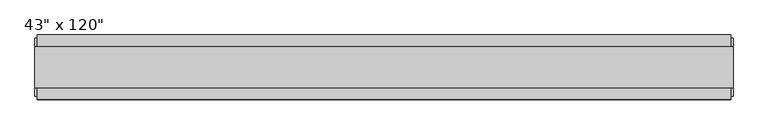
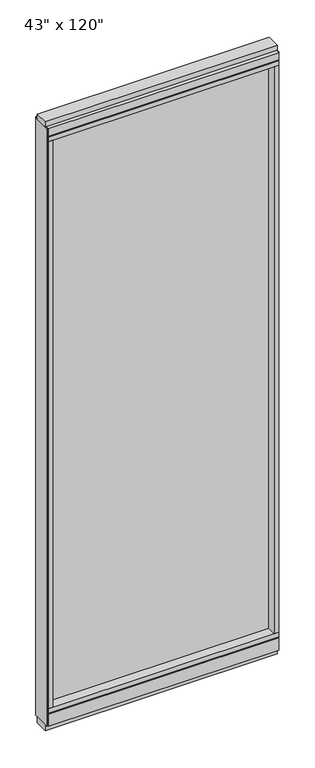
"""IFC4 building model written with IfcOpenShell, lengths in millimetres: furniture geometry."""

from ifc_helpers import new_model, si_unit, frame, origin, origin_with_axes, place, context, project, spatial, polyline, outline, extrude, source, transform, mapped, element, save


def furniture_c3b1cbea(model_context):
    return source(origin(), model_context, "Body", "SweptSolid", [
        extrude(outline(polyline([(463.7213989, -9.5977216), (-583.7944448, -9.5977216), (-583.7944448, 0.5622784), (463.7213989, 0.5622784), (463.7213989, -9.5977216)])), frame((0.0, 0.0, 120.523), z_axis=(0.0, 0.0, 1.0), x_axis=(1.0, 0.0, 0.0)), (0.0, 0.0, 1.0), 2838.577),
        extrude(outline(polyline([(-55.3177216, 93.345), (-50.3647216, 93.345), (-50.3647216, 98.298), (41.3292784, 98.298), (41.3292784, 93.345), (46.2822784, 93.345), (46.2822784, 31.75), (-55.3177216, 31.75), (-55.3177216, 93.345)])), frame((-606.0194448, 0.0, 0.0), z_axis=(1.0, 0.0, 0.0), x_axis=(0.0, 1.0, 0.0)), (0.0, 0.0, 1.0), 1091.9658437),
        extrude(outline(polyline([(-606.0194448, -55.3177216), (-606.0194448, 46.2822784), (485.9463989, 46.2822784), (485.9463989, -55.3177216), (-606.0194448, -55.3177216)])), frame((0.0, 0.0, 98.298), z_axis=(0.0, 0.0, 1.0), x_axis=(1.0, 0.0, 0.0)), (0.0, 0.0, 1.0), 22.225),
        extrude(outline(polyline([(489.8833989, 27.9942784), (489.8833989, -37.0297216), (-609.9564448, -37.0297216), (-609.9564448, 27.9942784), (489.8833989, 27.9942784)])), origin_with_axes(), (0.0, 0.0, 1.0), 31.75),
        extrude(outline(polyline([(-609.9564448, -37.0297216), (-609.9564448, 27.9942784), (489.8833989, 27.9942784), (489.8833989, -37.0297216), (-609.9564448, -37.0297216)])), frame((0.0, 0.0, 3022.6), z_axis=(0.0, 0.0, 1.0), x_axis=(1.0, 0.0, 0.0)), (0.0, 0.0, 1.0), 25.4),
        extrude(outline(polyline([(-55.3177216, 2986.278), (-55.3177216, 3022.6), (46.2822784, 3022.6), (46.2822784, 2986.278), (41.3292784, 2986.278), (41.3292784, 2981.325), (-50.3647216, 2981.325), (-50.3647216, 2986.278), (-55.3177216, 2986.278)])), frame((-606.0194448, 0.0, 0.0), z_axis=(1.0, 0.0, 0.0), x_axis=(0.0, 1.0, 0.0)), (0.0, 0.0, 1.0), 1091.9658437),
        extrude(outline(polyline([(485.9463989, 46.2822784), (485.9463989, -55.3177216), (-606.0194448, -55.3177216), (-606.0194448, 46.2822784), (485.9463989, 46.2822784)])), frame((0.0, 0.0, 2959.1), z_axis=(0.0, 0.0, 1.0), x_axis=(1.0, 0.0, 0.0)), (0.0, 0.0, 1.0), 22.225),
        extrude(outline(polyline([(463.7213989, -55.3177216), (463.7213989, 46.2822784), (485.9463989, 46.2822784), (485.9463989, -55.3177216), (463.7213989, -55.3177216)])), frame((0.0, 0.0, 120.523), z_axis=(0.0, 0.0, 1.0), x_axis=(1.0, 0.0, 0.0)), (0.0, 0.0, 1.0), 2838.577),
        extrude(outline(polyline([(-583.7944448, -55.3177216), (-606.0194448, -55.3177216), (-606.0194448, 46.2822784), (-583.7944448, 46.2822784), (-583.7944448, -55.3177216)])), frame((0.0, 0.0, 120.523), z_axis=(0.0, 0.0, 1.0), x_axis=(1.0, 0.0, 0.0)), (0.0, 0.0, 1.0), 2838.577),
        extrude(outline(polyline([(489.8833989, -50.3647216), (485.9463989, -50.3647216), (485.9463989, 41.3292784), (489.8833989, 41.3292784), (489.8833989, -50.3647216)])), frame((0.0, 0.0, 31.75), z_axis=(0.0, 0.0, 1.0), x_axis=(1.0, 0.0, 0.0)), (0.0, 0.0, 1.0), 2990.85),
        extrude(outline(polyline([(-609.9564448, -50.3647216), (-609.9564448, 41.3292784), (-606.0194448, 41.3292784), (-606.0194448, -50.3647216), (-609.9564448, -50.3647216)])), frame((0.0, 0.0, 31.75), z_axis=(0.0, 0.0, 1.0), x_axis=(1.0, 0.0, 0.0)), (0.0, 0.0, 1.0), 2990.85),
    ])


if __name__ == "__main__":
    model = new_model("IFC4")
    model_context = context("Model", 3, world=origin())
    ifc_project = project(units=[si_unit("LENGTHUNIT", "METRE", prefix="MILLI")], contexts=[model_context])
    site = spatial("IfcSite", under=ifc_project)
    building = spatial("IfcBuilding", under=site)
    placement = place(None, origin())
    furniture_shape = furniture_c3b1cbea(model_context)
    element("IfcFurniture", 1, ObjectType="Haworth_Enclose_Wall_Glass : 43\" x 120\"", at=placement, inside=building, context=model_context, shape_type="MappedRepresentation", body=[
        mapped(furniture_shape, transform((0.0, 0.0, 0.0), x_axis=(1.0, 0.0, 0.0), y_axis=(0.0, 1.0, 0.0), z_axis=(0.0, 0.0, 1.0))),
    ])
    save(model, "model.ifc")
